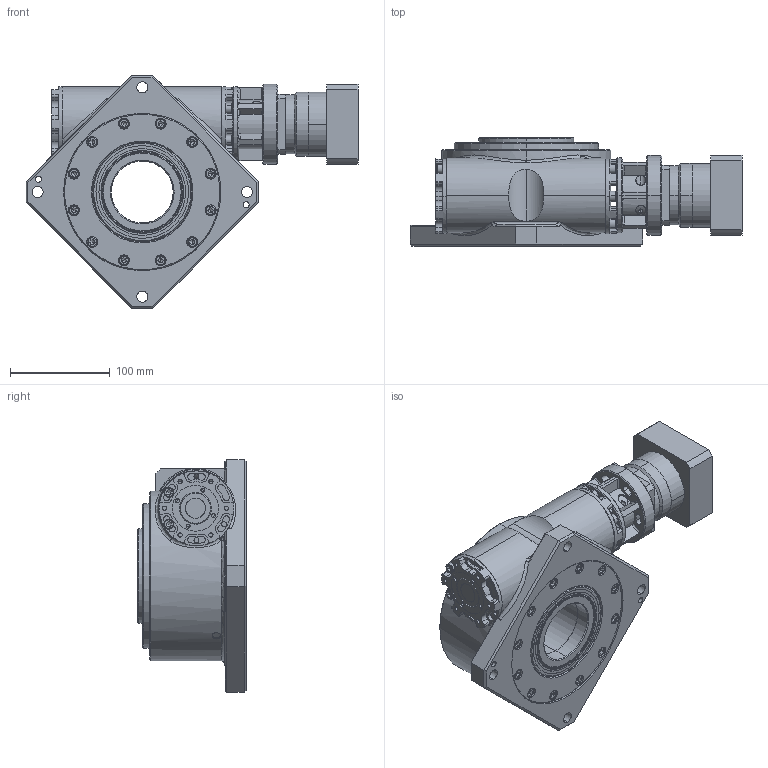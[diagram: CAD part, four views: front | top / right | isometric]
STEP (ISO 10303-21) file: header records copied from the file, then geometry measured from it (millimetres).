
FILE_DESCRIPTION (( 'STEP AP203' ), '1' );
FILE_NAME ('HL68-20R-PLM60-L1-输出14-输入19-70-M5-90-LR42装配体.STEP', '2023-12-16T05:59:28', ( '微软用户' ), ( '微软中国' ), 'SwSTEP 2.0', 'SolidWorks 2016', '' );
FILE_SCHEMA (( 'CONFIG_CONTROL_DESIGN' ));
Length unit declared in the file: millimetre
Products named in the file (1): HL68-20R-PLM60-L1-输出14-输入19-70-M5-90-LR42装配体
Bounding box: 333.17 x 109 x 233.35 mm (x, y, z)
Surface area: 267644.4 mm2 (no closed solid volume)
Topology: 0 solids, 70 shells, 1134 faces, 3490 edges, 2264 vertices
Faces by surface type: cylinder 527, plane 405, cone 108, torus 75, bspline 16, sphere 3
Entity records: 41840 total; most frequent: CARTESIAN_POINT 10139, DIRECTION 7166, ORIENTED_EDGE 5886, EDGE_CURVE 3428, AXIS2_PLACEMENT_3D 2761, VERTEX_POINT 2264, VECTOR 1644, LINE 1644
